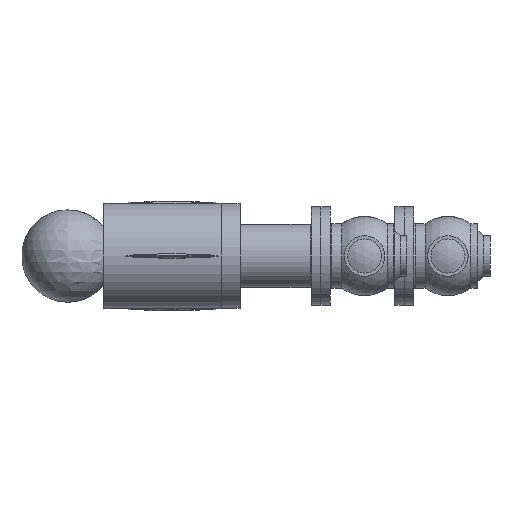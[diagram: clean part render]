
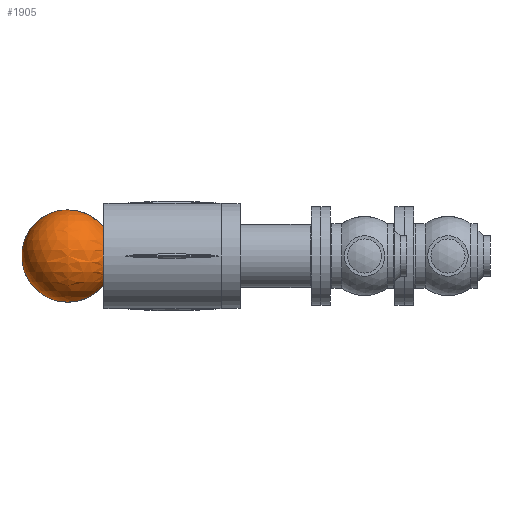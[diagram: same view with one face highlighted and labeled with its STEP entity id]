
A CAD part, left-side view. The second image highlights one B-rep face of the part: STEP entity #1905.
In plain terms, the highlighted spherical face has radius 72.5 mm.
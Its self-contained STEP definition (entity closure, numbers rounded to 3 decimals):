
#123=SPHERICAL_SURFACE('',#2228,72.5);
#351=FACE_BOUND('',#529,.T.);
#410=FACE_OUTER_BOUND('',#528,.T.);
#528=EDGE_LOOP('',(#1490,#1491));
#529=EDGE_LOOP('',(#1492));
#682=CIRCLE('',#2229,72.5);
#683=CIRCLE('',#2230,46.648);
#895=VERTEX_POINT('',#3718);
#896=VERTEX_POINT('',#3719);
#897=VERTEX_POINT('',#3721);
#1123=EDGE_CURVE('',#895,#896,#682,.T.);
#1124=EDGE_CURVE('',#897,#897,#683,.T.);
#1490=ORIENTED_EDGE('',*,*,#1123,.T.);
#1491=ORIENTED_EDGE('',*,*,#1123,.F.);
#1492=ORIENTED_EDGE('',*,*,#1124,.F.);
#1905=ADVANCED_FACE('',(#410,#351),#123,.T.);
#2228=AXIS2_PLACEMENT_3D('',#3717,#2679,#2680);
#2229=AXIS2_PLACEMENT_3D('',#3720,#2681,#2682);
#2230=AXIS2_PLACEMENT_3D('',#3722,#2683,#2684);
#2679=DIRECTION('center_axis',(0.,0.,1.));
#2680=DIRECTION('ref_axis',(1.,0.,0.));
#2681=DIRECTION('center_axis',(0.,-1.,0.));
#2682=DIRECTION('ref_axis',(-1.,0.,0.));
#2683=DIRECTION('center_axis',(0.,-1.,0.));
#2684=DIRECTION('ref_axis',(1.,0.,0.));
#3717=CARTESIAN_POINT('Origin',(150.,266.5,0.));
#3718=CARTESIAN_POINT('',(150.,266.5,72.5));
#3719=CARTESIAN_POINT('',(150.,266.5,-72.5));
#3720=CARTESIAN_POINT('Origin',(150.,266.5,0.));
#3721=CARTESIAN_POINT('',(196.648,211.,0.));
#3722=CARTESIAN_POINT('Origin',(150.,211.,0.));
